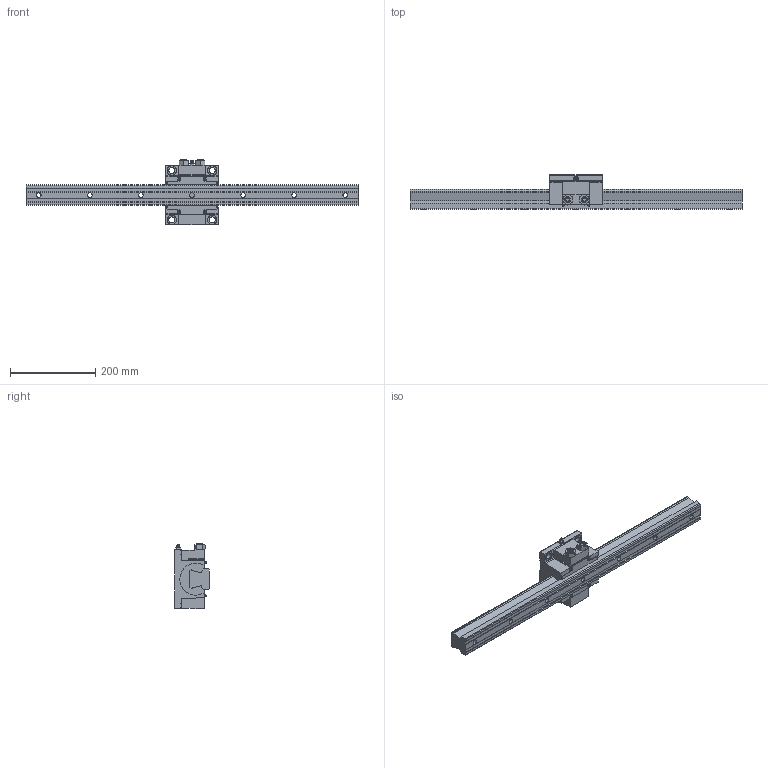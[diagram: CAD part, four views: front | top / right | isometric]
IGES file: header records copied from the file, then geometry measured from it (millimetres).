
Start section: Data from Parasolid IGES Translator 26.0.171, Copyright(c) 2006 Siemens PLM Software. All Rights Reserved.
Global section: file name: NSR50TBC1-780L_G30_0_A-PT18_328-5_0_0_0.igs; native system: By Siemens PLM Incorporated; preprocessor: XPlus GENERIC/IGES 26.0.171; author: Noname; organization: Noname; date: 20240521.121239; units: millimetre
Bounding box: 780 x 82 x 155 mm (x, y, z)
Surface area: 253983.7 mm2 (no closed solid volume)
Topology: 0 solids, 0 shells, 270 faces, 1457 edges, 1400 vertices
Faces by surface type: extrusion 166, revolution 104
